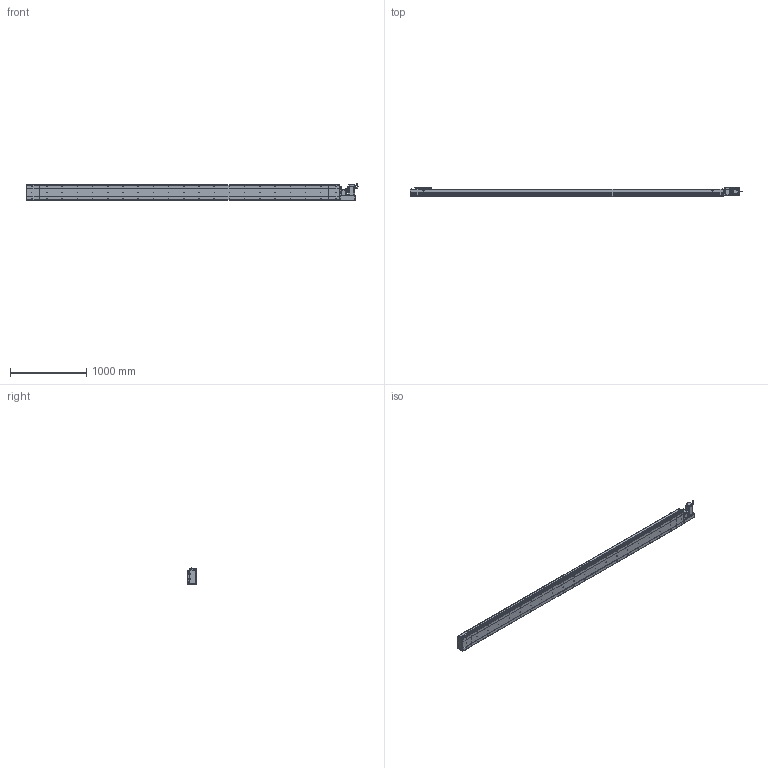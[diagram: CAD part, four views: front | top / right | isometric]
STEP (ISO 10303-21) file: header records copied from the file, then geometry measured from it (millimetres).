
FILE_DESCRIPTION (( 'STEP AP214' ), '1' );
FILE_NAME ('D20 CBH RH S3800.STEP', '2010-06-30T11:10:49', ( 'Conseil Régional Haute-Normandie' ), ( 'Conseil Régional Haute-Normandie' ), 'SwSTEP 2.0', 'SolidWorks 2010', '' );
FILE_SCHEMA (( 'AUTOMOTIVE_DESIGN' ));
Length unit declared in the file: millimetre
Products named in the file (31): vis M5 L15_Default; Plaque de Bout Tail D20_Default; Plaque De Serrage D20_Default; Couvercle_Default; D20 CBH RH S3800; Corp Tail D20 RH_Default; Conecteur2_Default; corps 90BLDC125A-640; Couvercle RH_Default; codeur 90BLDC125-640; Plaque de Bout Head D20 RH_Default; ecrou_Default; vis M5 L30_Default; Cache Support Moteur RH_Default; Corp D20 S3800_Default; vis M5 L47_Default; Couvercle S3800_Default; Corp S3800_Default; Head D20 RH_Default; Support Chariot D20_Default; Chariot D20_Default; Glissiere_Default; Corp Tail D20_Default; Tail D20_Default; Conecteur_Default; Moteur motionking 90BLDC125A-640; avant 90BLDC125A-640; Plaque De Serrage D20 RH_Default; Rondelle Cache D20 RH_Default; Support moteur RH_Default
Assembly tree (68 placements, depth 4):
  D20 CBH RH S3800
    Corp D20 S3800_Default
      Couvercle S3800_Default
      Corp S3800_Default
    Tail D20_Default
      vis M5 L15_Default  x6
      Couvercle_Default
      Corp Tail D20_Default
      Plaque de Bout Tail D20_Default
      Plaque De Serrage D20_Default
    Chariot D20_Default
      vis M5 L15_Default  x8
      Glissiere_Default
      Support Chariot D20_Default
      Chariot D20_Default
    Head D20 RH_Default
      ecrou_Default  x4
      vis M5 L15_Default  x14
      Rondelle Cache D20 RH_Default  x3
      Cache Support Moteur RH_Default
      vis M5 L30_Default  x4
      Couvercle RH_Default
      vis M5 L47_Default  x4
      Moteur motionking 90BLDC125A-640
        codeur 90BLDC125-640
        Conecteur2_Default
        Conecteur_Default
        corps 90BLDC125A-640
        avant 90BLDC125A-640
      Support moteur RH_Default
      Plaque de Bout Head D20 RH_Default
      Corp Tail D20 RH_Default
      Plaque De Serrage D20 RH_Default
Bounding box: 4365.45 x 119.5 x 229.7 mm (x, y, z)
Volume: 28296108 mm3; surface area: 5399688.2 mm2
Topology: 105 solids, 105 shells, 3898 faces, 9660 edges, 6274 vertices
Faces by surface type: plane 2155, bspline 806, cylinder 766, torus 95, cone 72, sphere 4
Entity records: 161582 total; most frequent: CARTESIAN_POINT 82664, ORIENTED_EDGE 15588, DIRECTION 12046, EDGE_CURVE 7794, VERTEX_POINT 5158, VECTOR 4990, LINE 4990, AXIS2_PLACEMENT_3D 3528
